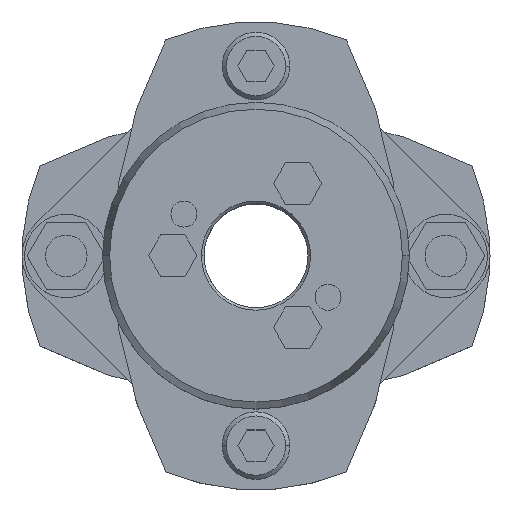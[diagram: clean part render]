
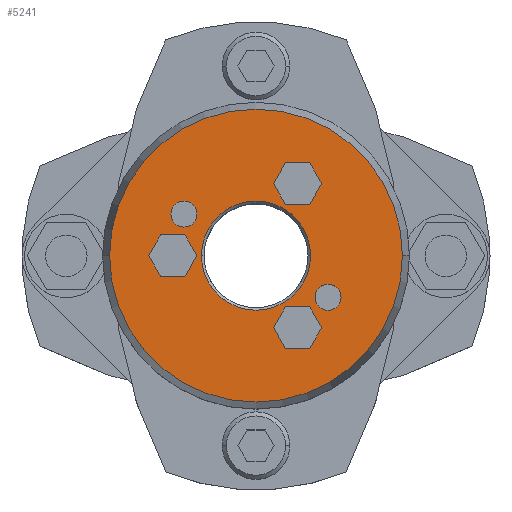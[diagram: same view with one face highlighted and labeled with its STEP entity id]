
A CAD part, top view. The second image highlights one B-rep face of the part: STEP entity #5241.
In plain terms, the highlighted planar face has unit normal (0, 0, 1).
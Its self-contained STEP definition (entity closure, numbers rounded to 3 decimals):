
#857=CARTESIAN_POINT('',(-10.5,0.,39.25));
#858=VERTEX_POINT('',#857);
#874=CARTESIAN_POINT('',(10.5,0.,39.25));
#875=VERTEX_POINT('',#874);
#882=CARTESIAN_POINT('',(0.,0.,39.25));
#883=DIRECTION('',(0.0,0.0,1.0));
#884=DIRECTION('',(-1.0,0.0,0.0));
#885=AXIS2_PLACEMENT_3D('',#882,#883,#884);
#886=CIRCLE('',#885,10.5);
#887=EDGE_CURVE('',#875,#858,#886,.T.);
#1045=CARTESIAN_POINT('',(28.16,0.,39.25));
#1046=VERTEX_POINT('',#1045);
#1053=CARTESIAN_POINT('',(-28.16,0.,39.25));
#1054=VERTEX_POINT('',#1053);
#1055=CARTESIAN_POINT('',(0.,0.,39.25));
#1056=DIRECTION('',(0.0,0.0,-1.0));
#1057=DIRECTION('',(1.0,0.0,0.0));
#1058=AXIS2_PLACEMENT_3D('',#1055,#1056,#1057);
#1059=CIRCLE('',#1058,28.16);
#1060=EDGE_CURVE('',#1046,#1054,#1059,.T.);
#1303=CARTESIAN_POINT('',(-16.356,8.,39.25));
#1304=VERTEX_POINT('',#1303);
#1320=CARTESIAN_POINT('',(-11.356,8.,39.25));
#1321=VERTEX_POINT('',#1320);
#1328=CARTESIAN_POINT('',(-13.856,8.,39.25));
#1329=DIRECTION('',(0.0,0.0,-1.0));
#1330=DIRECTION('',(-1.0,0.0,0.0));
#1331=AXIS2_PLACEMENT_3D('',#1328,#1329,#1330);
#1332=CIRCLE('',#1331,2.5);
#1333=EDGE_CURVE('',#1304,#1321,#1332,.T.);
#1345=CARTESIAN_POINT('',(11.356,-8.,39.25));
#1346=VERTEX_POINT('',#1345);
#1362=CARTESIAN_POINT('',(16.356,-8.,39.25));
#1363=VERTEX_POINT('',#1362);
#1370=CARTESIAN_POINT('',(13.856,-8.,39.25));
#1371=DIRECTION('',(0.0,0.0,-1.0));
#1372=DIRECTION('',(-1.0,0.0,0.0));
#1373=AXIS2_PLACEMENT_3D('',#1370,#1371,#1372);
#1374=CIRCLE('',#1373,2.5);
#1375=EDGE_CURVE('',#1346,#1363,#1374,.T.);
#3757=CARTESIAN_POINT('',(3.381,13.856,39.25));
#3758=VERTEX_POINT('',#3757);
#3765=CARTESIAN_POINT('',(5.691,9.856,39.25));
#3766=VERTEX_POINT('',#3765);
#3767=CARTESIAN_POINT('',(5.691,9.856,39.25));
#3768=DIRECTION('',(-0.5,0.866,0.0));
#3769=VECTOR('',#3768,4.619);
#3770=LINE('',#3767,#3769);
#3771=EDGE_CURVE('',#3766,#3758,#3770,.T.);
#3795=CARTESIAN_POINT('',(5.691,17.856,39.25));
#3796=VERTEX_POINT('',#3795);
#3803=CARTESIAN_POINT('',(3.381,13.856,39.25));
#3804=DIRECTION('',(0.5,0.866,0.0));
#3805=VECTOR('',#3804,4.619);
#3806=LINE('',#3803,#3805);
#3807=EDGE_CURVE('',#3758,#3796,#3806,.T.);
#3826=CARTESIAN_POINT('',(10.309,17.856,39.25));
#3827=VERTEX_POINT('',#3826);
#3834=CARTESIAN_POINT('',(5.691,17.856,39.25));
#3835=DIRECTION('',(1.0,0.0,0.0));
#3836=VECTOR('',#3835,4.619);
#3837=LINE('',#3834,#3836);
#3838=EDGE_CURVE('',#3796,#3827,#3837,.T.);
#3857=CARTESIAN_POINT('',(12.619,13.856,39.25));
#3858=VERTEX_POINT('',#3857);
#3865=CARTESIAN_POINT('',(10.309,17.856,39.25));
#3866=DIRECTION('',(0.5,-0.866,0.0));
#3867=VECTOR('',#3866,4.619);
#3868=LINE('',#3865,#3867);
#3869=EDGE_CURVE('',#3827,#3858,#3868,.T.);
#3888=CARTESIAN_POINT('',(10.309,9.856,39.25));
#3889=VERTEX_POINT('',#3888);
#3896=CARTESIAN_POINT('',(12.619,13.856,39.25));
#3897=DIRECTION('',(-0.5,-0.866,0.0));
#3898=VECTOR('',#3897,4.619);
#3899=LINE('',#3896,#3898);
#3900=EDGE_CURVE('',#3858,#3889,#3899,.T.);
#3918=CARTESIAN_POINT('',(10.309,9.856,39.25));
#3919=DIRECTION('',(-1.0,0.0,0.0));
#3920=VECTOR('',#3919,4.619);
#3921=LINE('',#3918,#3920);
#3922=EDGE_CURVE('',#3889,#3766,#3921,.T.);
#3957=CARTESIAN_POINT('',(-20.619,0.,39.25));
#3958=VERTEX_POINT('',#3957);
#3965=CARTESIAN_POINT('',(-18.309,-4.,39.25));
#3966=VERTEX_POINT('',#3965);
#3967=CARTESIAN_POINT('',(-18.309,-4.,39.25));
#3968=DIRECTION('',(-0.5,0.866,0.0));
#3969=VECTOR('',#3968,4.619);
#3970=LINE('',#3967,#3969);
#3971=EDGE_CURVE('',#3966,#3958,#3970,.T.);
#3995=CARTESIAN_POINT('',(-18.309,4.,39.25));
#3996=VERTEX_POINT('',#3995);
#4003=CARTESIAN_POINT('',(-20.619,0.,39.25));
#4004=DIRECTION('',(0.5,0.866,0.0));
#4005=VECTOR('',#4004,4.619);
#4006=LINE('',#4003,#4005);
#4007=EDGE_CURVE('',#3958,#3996,#4006,.T.);
#4026=CARTESIAN_POINT('',(-13.691,4.,39.25));
#4027=VERTEX_POINT('',#4026);
#4034=CARTESIAN_POINT('',(-18.309,4.,39.25));
#4035=DIRECTION('',(1.0,0.0,0.0));
#4036=VECTOR('',#4035,4.619);
#4037=LINE('',#4034,#4036);
#4038=EDGE_CURVE('',#3996,#4027,#4037,.T.);
#4057=CARTESIAN_POINT('',(-11.381,0.,39.25));
#4058=VERTEX_POINT('',#4057);
#4065=CARTESIAN_POINT('',(-13.691,4.,39.25));
#4066=DIRECTION('',(0.5,-0.866,0.0));
#4067=VECTOR('',#4066,4.619);
#4068=LINE('',#4065,#4067);
#4069=EDGE_CURVE('',#4027,#4058,#4068,.T.);
#4088=CARTESIAN_POINT('',(-13.691,-4.,39.25));
#4089=VERTEX_POINT('',#4088);
#4096=CARTESIAN_POINT('',(-11.381,0.,39.25));
#4097=DIRECTION('',(-0.5,-0.866,0.0));
#4098=VECTOR('',#4097,4.619);
#4099=LINE('',#4096,#4098);
#4100=EDGE_CURVE('',#4058,#4089,#4099,.T.);
#4118=CARTESIAN_POINT('',(-13.691,-4.,39.25));
#4119=DIRECTION('',(-1.0,0.0,0.0));
#4120=VECTOR('',#4119,4.619);
#4121=LINE('',#4118,#4120);
#4122=EDGE_CURVE('',#4089,#3966,#4121,.T.);
#4157=CARTESIAN_POINT('',(3.381,-13.856,39.25));
#4158=VERTEX_POINT('',#4157);
#4165=CARTESIAN_POINT('',(5.691,-17.856,39.25));
#4166=VERTEX_POINT('',#4165);
#4167=CARTESIAN_POINT('',(5.691,-17.856,39.25));
#4168=DIRECTION('',(-0.5,0.866,0.0));
#4169=VECTOR('',#4168,4.619);
#4170=LINE('',#4167,#4169);
#4171=EDGE_CURVE('',#4166,#4158,#4170,.T.);
#4195=CARTESIAN_POINT('',(5.691,-9.856,39.25));
#4196=VERTEX_POINT('',#4195);
#4203=CARTESIAN_POINT('',(3.381,-13.856,39.25));
#4204=DIRECTION('',(0.5,0.866,0.0));
#4205=VECTOR('',#4204,4.619);
#4206=LINE('',#4203,#4205);
#4207=EDGE_CURVE('',#4158,#4196,#4206,.T.);
#4226=CARTESIAN_POINT('',(10.309,-9.856,39.25));
#4227=VERTEX_POINT('',#4226);
#4234=CARTESIAN_POINT('',(5.691,-9.856,39.25));
#4235=DIRECTION('',(1.0,0.0,0.0));
#4236=VECTOR('',#4235,4.619);
#4237=LINE('',#4234,#4236);
#4238=EDGE_CURVE('',#4196,#4227,#4237,.T.);
#4257=CARTESIAN_POINT('',(12.619,-13.856,39.25));
#4258=VERTEX_POINT('',#4257);
#4265=CARTESIAN_POINT('',(10.309,-9.856,39.25));
#4266=DIRECTION('',(0.5,-0.866,0.0));
#4267=VECTOR('',#4266,4.619);
#4268=LINE('',#4265,#4267);
#4269=EDGE_CURVE('',#4227,#4258,#4268,.T.);
#4288=CARTESIAN_POINT('',(10.309,-17.856,39.25));
#4289=VERTEX_POINT('',#4288);
#4296=CARTESIAN_POINT('',(12.619,-13.856,39.25));
#4297=DIRECTION('',(-0.5,-0.866,0.0));
#4298=VECTOR('',#4297,4.619);
#4299=LINE('',#4296,#4298);
#4300=EDGE_CURVE('',#4258,#4289,#4299,.T.);
#4318=CARTESIAN_POINT('',(10.309,-17.856,39.25));
#4319=DIRECTION('',(-1.0,0.0,0.0));
#4320=VECTOR('',#4319,4.619);
#4321=LINE('',#4318,#4320);
#4322=EDGE_CURVE('',#4289,#4166,#4321,.T.);
#4348=CARTESIAN_POINT('',(13.856,-8.,39.25));
#4349=DIRECTION('',(0.0,0.0,-1.0));
#4350=DIRECTION('',(-1.0,0.0,0.0));
#4351=AXIS2_PLACEMENT_3D('',#4348,#4349,#4350);
#4352=CIRCLE('',#4351,2.5);
#4353=EDGE_CURVE('',#1363,#1346,#4352,.T.);
#4382=CARTESIAN_POINT('',(-13.856,8.,39.25));
#4383=DIRECTION('',(0.0,0.0,-1.0));
#4384=DIRECTION('',(-1.0,0.0,0.0));
#4385=AXIS2_PLACEMENT_3D('',#4382,#4383,#4384);
#4386=CIRCLE('',#4385,2.5);
#4387=EDGE_CURVE('',#1321,#1304,#4386,.T.);
#5180=CARTESIAN_POINT('',(0.,0.,39.25));
#5181=DIRECTION('',(0.0,0.0,-1.0));
#5182=DIRECTION('',(1.0,0.0,0.0));
#5183=AXIS2_PLACEMENT_3D('',#5180,#5181,#5182);
#5184=CIRCLE('',#5183,28.16);
#5185=EDGE_CURVE('',#1054,#1046,#5184,.T.);
#5190=CARTESIAN_POINT('',(-2.682,0.,39.25));
#5191=DIRECTION('',(0.0,0.0,1.0));
#5192=DIRECTION('',(-1.0,0.0,0.0));
#5193=AXIS2_PLACEMENT_3D('',#5190,#5191,#5192);
#5194=PLANE('',#5193);
#5195=ORIENTED_EDGE('',*,*,#5185,.F.);
#5196=ORIENTED_EDGE('',*,*,#1060,.F.);
#5197=EDGE_LOOP('',(#5195,#5196));
#5198=FACE_OUTER_BOUND('',#5197,.T.);
#5199=ORIENTED_EDGE('',*,*,#3771,.T.);
#5200=ORIENTED_EDGE('',*,*,#3807,.T.);
#5201=ORIENTED_EDGE('',*,*,#3838,.T.);
#5202=ORIENTED_EDGE('',*,*,#3869,.T.);
#5203=ORIENTED_EDGE('',*,*,#3900,.T.);
#5204=ORIENTED_EDGE('',*,*,#3922,.T.);
#5205=EDGE_LOOP('',(#5199,#5200,#5201,#5202,#5203,#5204));
#5206=FACE_BOUND('',#5205,.T.);
#5207=ORIENTED_EDGE('',*,*,#3971,.T.);
#5208=ORIENTED_EDGE('',*,*,#4007,.T.);
#5209=ORIENTED_EDGE('',*,*,#4038,.T.);
#5210=ORIENTED_EDGE('',*,*,#4069,.T.);
#5211=ORIENTED_EDGE('',*,*,#4100,.T.);
#5212=ORIENTED_EDGE('',*,*,#4122,.T.);
#5213=EDGE_LOOP('',(#5207,#5208,#5209,#5210,#5211,#5212));
#5214=FACE_BOUND('',#5213,.T.);
#5215=ORIENTED_EDGE('',*,*,#4171,.T.);
#5216=ORIENTED_EDGE('',*,*,#4207,.T.);
#5217=ORIENTED_EDGE('',*,*,#4238,.T.);
#5218=ORIENTED_EDGE('',*,*,#4269,.T.);
#5219=ORIENTED_EDGE('',*,*,#4300,.T.);
#5220=ORIENTED_EDGE('',*,*,#4322,.T.);
#5221=EDGE_LOOP('',(#5215,#5216,#5217,#5218,#5219,#5220));
#5222=FACE_BOUND('',#5221,.T.);
#5223=ORIENTED_EDGE('',*,*,#1375,.T.);
#5224=ORIENTED_EDGE('',*,*,#4353,.T.);
#5225=EDGE_LOOP('',(#5223,#5224));
#5226=FACE_BOUND('',#5225,.T.);
#5227=ORIENTED_EDGE('',*,*,#1333,.T.);
#5228=ORIENTED_EDGE('',*,*,#4387,.T.);
#5229=EDGE_LOOP('',(#5227,#5228));
#5230=FACE_BOUND('',#5229,.T.);
#5231=ORIENTED_EDGE('',*,*,#887,.F.);
#5232=CARTESIAN_POINT('',(0.,0.,39.25));
#5233=DIRECTION('',(0.0,0.0,1.0));
#5234=DIRECTION('',(-1.0,0.0,0.0));
#5235=AXIS2_PLACEMENT_3D('',#5232,#5233,#5234);
#5236=CIRCLE('',#5235,10.5);
#5237=EDGE_CURVE('',#858,#875,#5236,.T.);
#5238=ORIENTED_EDGE('',*,*,#5237,.F.);
#5239=EDGE_LOOP('',(#5231,#5238));
#5240=FACE_BOUND('',#5239,.T.);
#5241=ADVANCED_FACE('',(#5198,#5206,#5214,#5222,#5226,#5230,#5240),#5194,.T.);
